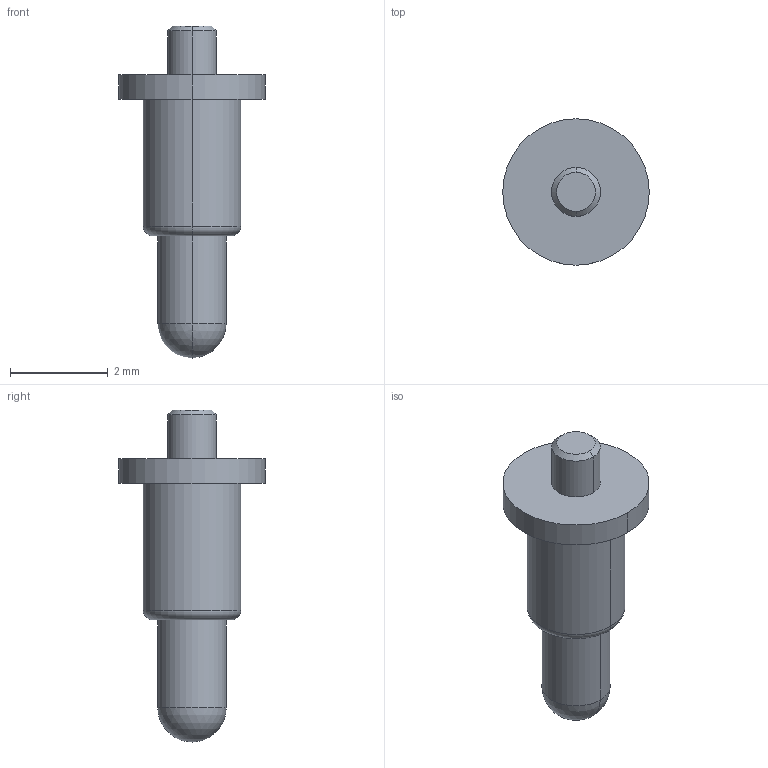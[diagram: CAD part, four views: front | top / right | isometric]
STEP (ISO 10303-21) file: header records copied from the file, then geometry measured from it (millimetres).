
FILE_DESCRIPTION((''),'2;1');
FILE_NAME('PRT0012','2023-05-26T11:00:45',('USER'),(''),'CREO PARAMETRIC BY PTC INC, 2020154','CREO PARAMETRIC BY PTC INC, 2020154','');
FILE_SCHEMA(('CONFIG_CONTROL_DESIGN'));
Length unit declared in the file: millimetre
Products named in the file (1): PRT0012
Bounding box: 3 x 3 x 6.8 mm (x, y, z)
Volume: 16.5 mm3; surface area: 48.3 mm2
Topology: 1 solids, 1 shells, 18 faces, 36 edges, 21 vertices
Faces by surface type: cylinder 8, plane 4, sphere 2, torus 2, cone 2
Entity records: 500 total; most frequent: DIRECTION 94, CARTESIAN_POINT 73, ORIENTED_EDGE 68, AXIS2_PLACEMENT_3D 42, EDGE_CURVE 34, CIRCLE 24, VERTEX_POINT 21, EDGE_LOOP 21
